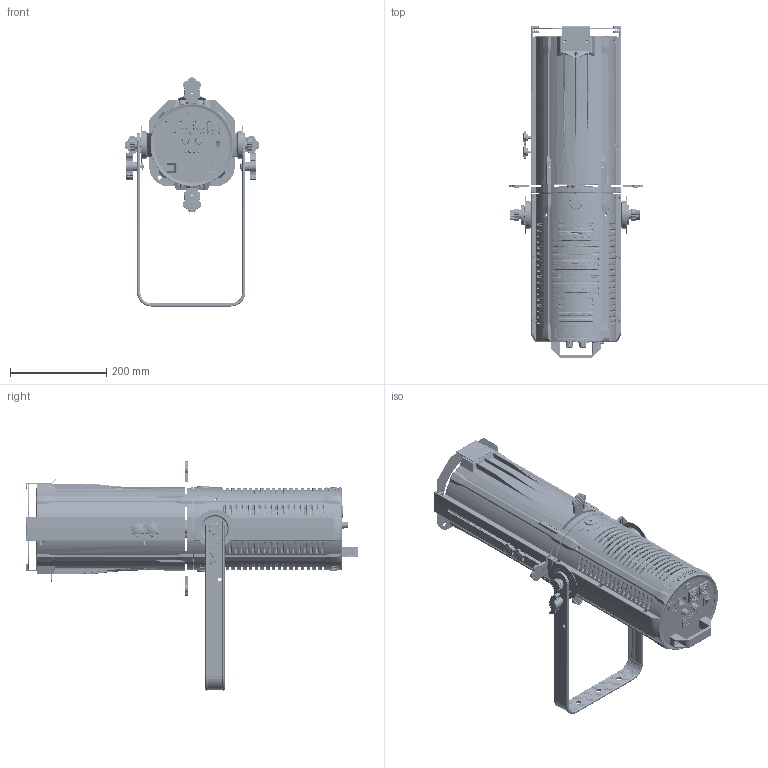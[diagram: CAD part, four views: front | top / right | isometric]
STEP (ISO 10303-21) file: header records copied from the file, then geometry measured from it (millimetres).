
FILE_DESCRIPTION((''),'2;1');
FILE_NAME('0001_ASM','2025-03-29T13:47:13',('ALY'),(''),'CREO PARAMETRIC BY PTC INC, 2022164','CREO PARAMETRIC BY PTC INC, 2022164','');
FILE_SCHEMA(('AUTOMOTIVE_DESIGN { 1 0 10303 214 1 1 1 1 }'));
Length unit declared in the file: millimetre
Products named in the file (35): WK-CX; TSGD; 0002; BXSZ-A; DJP-A__-__________; 0003; TJ-A_-___________ASM; TH-C; XN-M8C; JBB-A; DGB-CX1; YSP-12; 0006; KJ-3; SPJ-6; SLH-4; GX-C_ASM; DWEI-44; TS-C; XY-80; LS-F; XN-88; NY-S; TS-90; 50W0001; 000; 0009; _0001; _0002; 50W0002; 200W00; 30001; 30002; 00; 0001_ASM
Assembly tree (51 placements, depth 4):
  0001_ASM
    WK-CX  x2
    TSGD  x2
    0002
    BXSZ-A
    GX-C_ASM
      TJ-A_-___________ASM  x4
        DJP-A__-__________
        0003
      TH-C
      XN-M8C  x2
      JBB-A  x2
      DGB-CX1  x2
      YSP-12
      0006
      KJ-3
      SPJ-6
      SLH-4
    DWEI-44
    TS-C
    XY-80  x2
    LS-F  x2
    XN-88  x2
    NY-S  x2
    TS-90
    50W0001
    000  x4
    0009
    _0001
    _0002
    50W0002  x2
    200W00  x2
    30001
    30002
    00
Bounding box: 279.93 x 688.8 x 475.47 mm (x, y, z)
Volume: 1942401.2 mm3; surface area: 1469913.7 mm2
Topology: 59 solids, 61 shells, 12972 faces, 33698 edges, 20762 vertices
Faces by surface type: plane 5098, cylinder 3243, bspline 2642, torus 893, cone 602, extrusion 316, sphere 178
Entity records: 391986 total; most frequent: CARTESIAN_POINT 140884, ORIENTED_EDGE 39222, DIRECTION 31353, PRESENTATION_STYLE_ASSIGNMENT 20900, EDGE_CURVE 19611, STYLED_ITEM 19509, CURVE_STYLE 19207, VERTEX_POINT 12150
